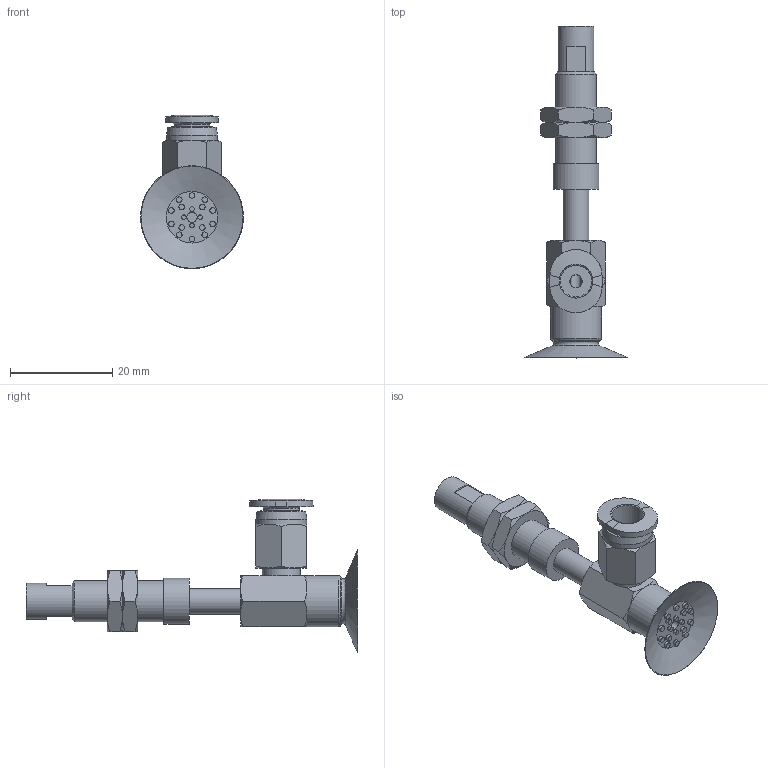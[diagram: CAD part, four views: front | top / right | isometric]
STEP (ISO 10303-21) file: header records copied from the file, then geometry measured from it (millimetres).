
FILE_DESCRIPTION(('STEP AP203'),'1');
FILE_NAME('-O.stp','2025-02-18T01:13:57',(' '),(' '),'Spatial InterOp 3D',' ',' ');
FILE_SCHEMA(('CONFIG_CONTROL_DESIGN'));
Length unit declared in the file: millimetre
Products named in the file (7): BNABPAYS-20A-10-※-O; NAPAYS-20A-10--M; NAPAYS-20A-10--F; Nut-10A-S; CONNECTOR-20A-10-PA; BPAG-20A-※_3D; PC-C_06-M5
Assembly tree (7 placements, depth 2):
  BNABPAYS-20A-10-※-O
    NAPAYS-20A-10--M
    NAPAYS-20A-10--F
    Nut-10A-S  x2
    CONNECTOR-20A-10-PA
    BPAG-20A-※_3D
    PC-C_06-M5
Bounding box: 20.19 x 65 x 30.07 mm (x, y, z)
Volume: 3822.6 mm3; surface area: 5890.5 mm2
Topology: 6 solids, 9 shells, 216 faces, 428 edges, 262 vertices
Faces by surface type: plane 86, cone 67, cylinder 44, torus 12, bspline 4, revolution 3
Full cylindrical faces by diameter (mm): 0.9 x4, 1.1 x14, 2 x2, 4 x4, 4.134 x2, 5 x4, 6 x2, 7 x2, 7.188 x2, 7.4 x1, 8 x1, 8.2 x1, 9 x1, 10 x2
Entity records: 5340 total; most frequent: CARTESIAN_POINT 1420, DIRECTION 761, ORIENTED_EDGE 594, AXIS2_PLACEMENT_3D 350, EDGE_LOOP 308, EDGE_CURVE 299, VERTEX_POINT 223, FACE_OUTER_BOUND 186
